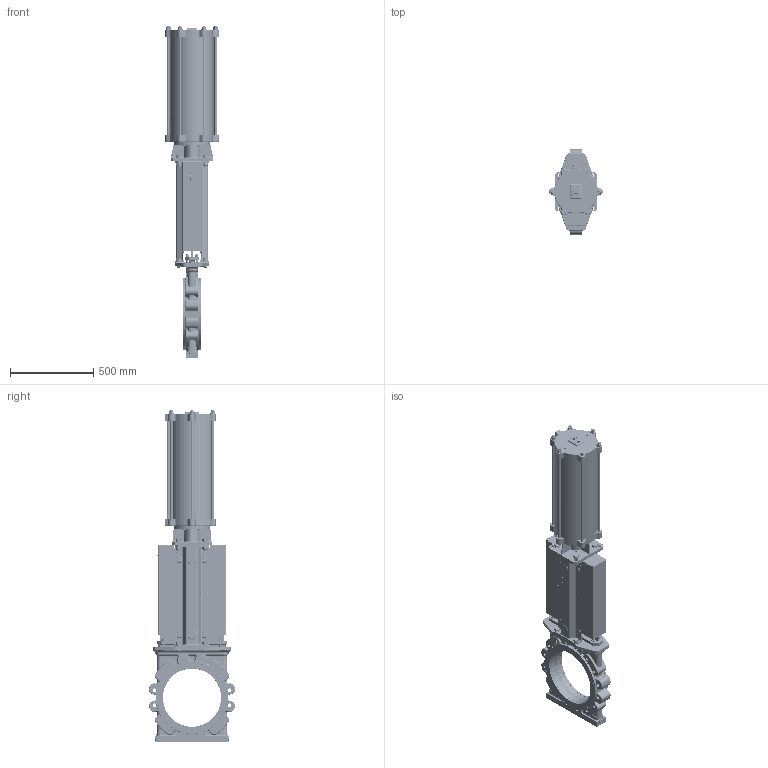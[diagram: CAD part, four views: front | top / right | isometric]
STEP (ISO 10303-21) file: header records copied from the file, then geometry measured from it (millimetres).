
FILE_DESCRIPTION(/* description */ (''),/* implementation_level */ '2;1');
FILE_NAME(/* name */ 'F:\3D-block färdiga för export\SLV-SLF\DN 350\SLV-DN350-PN10-FRSC250-450 .stp',/* time_stamp */ '2020-12-16T09:46:00+01:00',/* author */ ('MATZET'),/* organization */ (''),/* preprocessor_version */ 'ST-DEVELOPER v18',/* originating_system */ 'Autodesk Inventor 2020',/* authorisation */ '');
FILE_SCHEMA (('AUTOMOTIVE_DESIGN { 1 0 10303 214 3 1 1 }'));
Products named in the file (1): SLV-DN350-PN10-FRSC250-450 
Bounding box: 322 x 515.8 x 1991.5 mm (x, y, z)
Volume: 28474899.1 mm3; surface area: 5679600.4 mm2
Topology: 1 solids, 1 shells, 3890 faces, 9554 edges, 5932 vertices
Faces by surface type: plane 1381, cylinder 1137, torus 440, bspline 426, cone 348, sphere 158
Full cylindrical faces by diameter (mm): 2.459 x8, 3 x12, 3.5 x8, 4 x24, 4.917 x7, 5 x8, 6 x13, 6.647 x4, 7 x12, 7.5 x16, 8 x12, 8.376 x4, 8.88 x1, 9.5 x2, 10 x12, 10.106 x4, 10.75 x2, 11 x12, 12 x12, 12.5 x6, 13 x8, 14 x7, 15 x9, 16 x12, 17 x6, 17.294 x24, 17.5 x6, 18 x1, 18.2 x4, 18.5 x2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
Entity records: 181133 total; most frequent: CARTESIAN_POINT 86932, DIRECTION 19716, ORIENTED_EDGE 18940, EDGE_CURVE 9470, AXIS2_PLACEMENT_3D 8162, VERTEX_POINT 5930, CIRCLE 4561, EDGE_LOOP 4420
